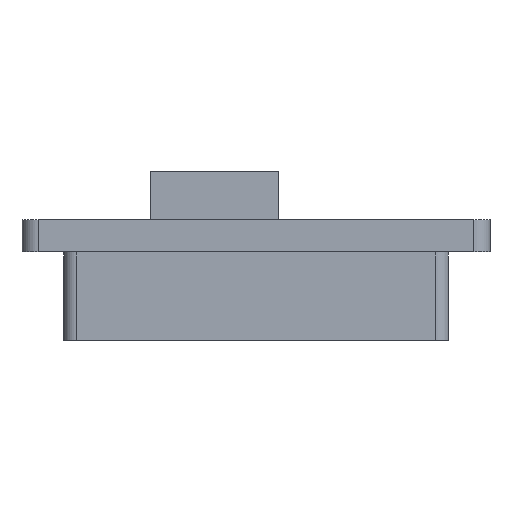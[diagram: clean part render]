
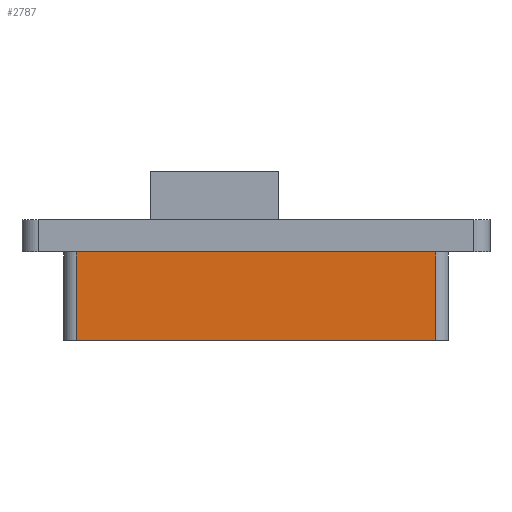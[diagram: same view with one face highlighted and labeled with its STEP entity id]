
A CAD part, left-side view. The second image highlights one B-rep face of the part: STEP entity #2787.
In plain terms, the highlighted planar face has unit normal (-1, 0, 0).
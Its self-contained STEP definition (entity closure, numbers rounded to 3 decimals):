
#100 = PLANE('',#101);
#101 = AXIS2_PLACEMENT_3D('',#102,#103,#104);
#102 = CARTESIAN_POINT('',(95.5,-77.2,-6.));
#103 = DIRECTION('',(0.,0.,1.));
#104 = DIRECTION('',(1.,0.,0.));
#884 = VERTEX_POINT('',#885);
#885 = CARTESIAN_POINT('',(100.,-73.8,-6.));
#902 = CYLINDRICAL_SURFACE('',#903,0.8);
#903 = AXIS2_PLACEMENT_3D('',#904,#905,#906);
#904 = CARTESIAN_POINT('',(100.8,-73.8,-11.5));
#905 = DIRECTION('',(0.,0.,1.));
#906 = DIRECTION('',(-1.,-0.,0.));
#914 = EDGE_CURVE('',#884,#915,#917,.T.);
#915 = VERTEX_POINT('',#916);
#916 = CARTESIAN_POINT('',(100.,-51.4,-6.));
#917 = SURFACE_CURVE('',#918,(#922,#929),.PCURVE_S1.);
#918 = LINE('',#919,#920);
#919 = CARTESIAN_POINT('',(100.,-75.9,-6.));
#920 = VECTOR('',#921,1.);
#921 = DIRECTION('',(0.,1.,0.));
#922 = PCURVE('',#100,#923);
#923 = DEFINITIONAL_REPRESENTATION('',(#924),#928);
#924 = LINE('',#925,#926);
#925 = CARTESIAN_POINT('',(4.5,1.3));
#926 = VECTOR('',#927,1.);
#927 = DIRECTION('',(0.,1.));
#928 = ( GEOMETRIC_REPRESENTATION_CONTEXT(2) 
PARAMETRIC_REPRESENTATION_CONTEXT() REPRESENTATION_CONTEXT('2D SPACE',''
  ) );
#929 = PCURVE('',#930,#935);
#930 = PLANE('',#931);
#931 = AXIS2_PLACEMENT_3D('',#932,#933,#934);
#932 = CARTESIAN_POINT('',(100.,-74.6,-11.5));
#933 = DIRECTION('',(1.,0.,0.));
#934 = DIRECTION('',(0.,0.,1.));
#935 = DEFINITIONAL_REPRESENTATION('',(#936),#939);
#936 = B_SPLINE_CURVE_WITH_KNOTS('',1,(#937,#938),.UNSPECIFIED.,.F.,.F.,
  (2,2),(2.1,24.5),.PIECEWISE_BEZIER_KNOTS.);
#937 = CARTESIAN_POINT('',(5.5,-0.8));
#938 = CARTESIAN_POINT('',(5.5,-23.2));
#939 = ( GEOMETRIC_REPRESENTATION_CONTEXT(2) 
PARAMETRIC_REPRESENTATION_CONTEXT() REPRESENTATION_CONTEXT('2D SPACE',''
  ) );
#958 = CYLINDRICAL_SURFACE('',#959,0.8);
#959 = AXIS2_PLACEMENT_3D('',#960,#961,#962);
#960 = CARTESIAN_POINT('',(100.8,-51.4,-11.5));
#961 = DIRECTION('',(0.,0.,1.));
#962 = DIRECTION('',(-1.,-0.,0.));
#2714 = EDGE_CURVE('',#2715,#884,#2717,.T.);
#2715 = VERTEX_POINT('',#2716);
#2716 = CARTESIAN_POINT('',(100.,-73.8,-11.5));
#2717 = SURFACE_CURVE('',#2718,(#2722,#2729),.PCURVE_S1.);
#2718 = LINE('',#2719,#2720);
#2719 = CARTESIAN_POINT('',(100.,-73.8,-11.5));
#2720 = VECTOR('',#2721,1.);
#2721 = DIRECTION('',(0.,0.,1.));
#2722 = PCURVE('',#902,#2723);
#2723 = DEFINITIONAL_REPRESENTATION('',(#2724),#2728);
#2724 = LINE('',#2725,#2726);
#2725 = CARTESIAN_POINT('',(0.,0.));
#2726 = VECTOR('',#2727,1.);
#2727 = DIRECTION('',(0.,1.));
#2728 = ( GEOMETRIC_REPRESENTATION_CONTEXT(2) 
PARAMETRIC_REPRESENTATION_CONTEXT() REPRESENTATION_CONTEXT('2D SPACE',''
  ) );
#2729 = PCURVE('',#930,#2730);
#2730 = DEFINITIONAL_REPRESENTATION('',(#2731),#2735);
#2731 = LINE('',#2732,#2733);
#2732 = CARTESIAN_POINT('',(0.,-0.8));
#2733 = VECTOR('',#2734,1.);
#2734 = DIRECTION('',(1.,0.));
#2735 = ( GEOMETRIC_REPRESENTATION_CONTEXT(2) 
PARAMETRIC_REPRESENTATION_CONTEXT() REPRESENTATION_CONTEXT('2D SPACE',''
  ) );
#2754 = PLANE('',#2755);
#2755 = AXIS2_PLACEMENT_3D('',#2756,#2757,#2758);
#2756 = CARTESIAN_POINT('',(100.,-74.6,-11.5));
#2757 = DIRECTION('',(0.,0.,1.));
#2758 = DIRECTION('',(1.,0.,0.));
#2787 = ADVANCED_FACE('',(#2788),#930,.F.);
#2788 = FACE_BOUND('',#2789,.F.);
#2789 = EDGE_LOOP('',(#2790,#2791,#2792,#2815));
#2790 = ORIENTED_EDGE('',*,*,#914,.F.);
#2791 = ORIENTED_EDGE('',*,*,#2714,.F.);
#2792 = ORIENTED_EDGE('',*,*,#2793,.T.);
#2793 = EDGE_CURVE('',#2715,#2794,#2796,.T.);
#2794 = VERTEX_POINT('',#2795);
#2795 = CARTESIAN_POINT('',(100.,-51.4,-11.5));
#2796 = SURFACE_CURVE('',#2797,(#2801,#2808),.PCURVE_S1.);
#2797 = LINE('',#2798,#2799);
#2798 = CARTESIAN_POINT('',(100.,-74.6,-11.5));
#2799 = VECTOR('',#2800,1.);
#2800 = DIRECTION('',(0.,1.,0.));
#2801 = PCURVE('',#930,#2802);
#2802 = DEFINITIONAL_REPRESENTATION('',(#2803),#2807);
#2803 = LINE('',#2804,#2805);
#2804 = CARTESIAN_POINT('',(0.,0.));
#2805 = VECTOR('',#2806,1.);
#2806 = DIRECTION('',(0.,-1.));
#2807 = ( GEOMETRIC_REPRESENTATION_CONTEXT(2) 
PARAMETRIC_REPRESENTATION_CONTEXT() REPRESENTATION_CONTEXT('2D SPACE',''
  ) );
#2808 = PCURVE('',#2754,#2809);
#2809 = DEFINITIONAL_REPRESENTATION('',(#2810),#2814);
#2810 = LINE('',#2811,#2812);
#2811 = CARTESIAN_POINT('',(0.,0.));
#2812 = VECTOR('',#2813,1.);
#2813 = DIRECTION('',(0.,1.));
#2814 = ( GEOMETRIC_REPRESENTATION_CONTEXT(2) 
PARAMETRIC_REPRESENTATION_CONTEXT() REPRESENTATION_CONTEXT('2D SPACE',''
  ) );
#2815 = ORIENTED_EDGE('',*,*,#2816,.T.);
#2816 = EDGE_CURVE('',#2794,#915,#2817,.T.);
#2817 = SURFACE_CURVE('',#2818,(#2822,#2829),.PCURVE_S1.);
#2818 = LINE('',#2819,#2820);
#2819 = CARTESIAN_POINT('',(100.,-51.4,-11.5));
#2820 = VECTOR('',#2821,1.);
#2821 = DIRECTION('',(0.,0.,1.));
#2822 = PCURVE('',#930,#2823);
#2823 = DEFINITIONAL_REPRESENTATION('',(#2824),#2828);
#2824 = LINE('',#2825,#2826);
#2825 = CARTESIAN_POINT('',(0.,-23.2));
#2826 = VECTOR('',#2827,1.);
#2827 = DIRECTION('',(1.,0.));
#2828 = ( GEOMETRIC_REPRESENTATION_CONTEXT(2) 
PARAMETRIC_REPRESENTATION_CONTEXT() REPRESENTATION_CONTEXT('2D SPACE',''
  ) );
#2829 = PCURVE('',#958,#2830);
#2830 = DEFINITIONAL_REPRESENTATION('',(#2831),#2835);
#2831 = LINE('',#2832,#2833);
#2832 = CARTESIAN_POINT('',(-0.,0.));
#2833 = VECTOR('',#2834,1.);
#2834 = DIRECTION('',(-0.,1.));
#2835 = ( GEOMETRIC_REPRESENTATION_CONTEXT(2) 
PARAMETRIC_REPRESENTATION_CONTEXT() REPRESENTATION_CONTEXT('2D SPACE',''
  ) );
